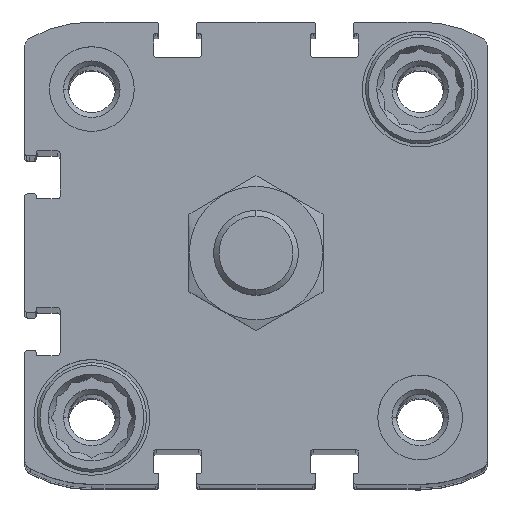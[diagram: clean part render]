
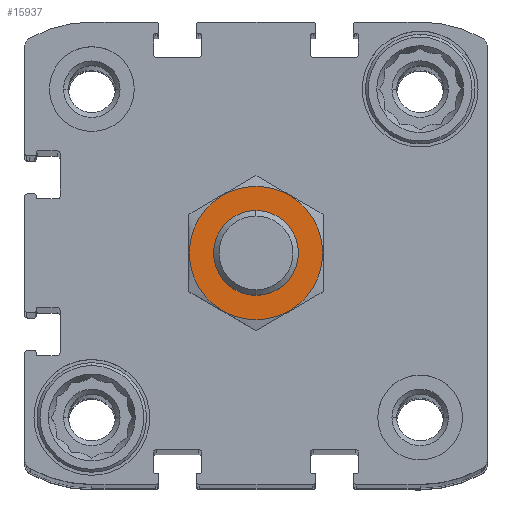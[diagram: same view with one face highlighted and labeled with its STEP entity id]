
A CAD part, top view. The second image highlights one B-rep face of the part: STEP entity #15937.
In plain terms, the highlighted planar face has unit normal (0, 0, 1) as drawn and (0, 1, 0) by its records, which use the part's own axes.
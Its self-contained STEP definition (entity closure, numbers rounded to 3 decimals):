
#256 = CARTESIAN_POINT ( 'NONE',  ( 0., 0., 0. ) ) ;
#599 = AXIS2_PLACEMENT_3D ( 'NONE', #4519, #15794, #8348 ) ;
#687 = VERTEX_POINT ( 'NONE', #12695 ) ;
#690 = PLANE ( 'NONE',  #599 ) ;
#714 = DIRECTION ( 'NONE',  ( 0., -1., 0. ) ) ;
#1363 = VERTEX_POINT ( 'NONE', #13951 ) ;
#1426 = DIRECTION ( 'NONE',  ( 0., -1., 0. ) ) ;
#1618 = CARTESIAN_POINT ( 'NONE',  ( 0., 0., 0. ) ) ;
#1930 = CARTESIAN_POINT ( 'NONE',  ( 9.45, 0., 0. ) ) ;
#2258 = VERTEX_POINT ( 'NONE', #1930 ) ;
#2584 = EDGE_CURVE ( 'NONE', #1363, #2258, #12847, .T. ) ;
#2762 = DIRECTION ( 'NONE',  ( 1., 0., 0. ) ) ;
#2890 = DIRECTION ( 'NONE',  ( 0., 0., 1. ) ) ;
#3432 = ORIENTED_EDGE ( 'NONE', *, *, #5563, .T. ) ;
#4519 = CARTESIAN_POINT ( 'NONE',  ( 0., 0., 0. ) ) ;
#5490 = ORIENTED_EDGE ( 'NONE', *, *, #8105, .T. ) ;
#5563 = EDGE_CURVE ( 'NONE', #687, #11377, #6941, .T. ) ;
#5653 = DIRECTION ( 'NONE',  ( 0., -1., 0. ) ) ;
#6493 = AXIS2_PLACEMENT_3D ( 'NONE', #8259, #714, #9543 ) ;
#6941 = CIRCLE ( 'NONE', #12470, 6. ) ;
#8105 = EDGE_CURVE ( 'NONE', #11377, #687, #15376, .T. ) ;
#8259 = CARTESIAN_POINT ( 'NONE',  ( 0., 0., 0. ) ) ;
#8291 = ORIENTED_EDGE ( 'NONE', *, *, #8803, .F. ) ;
#8348 = DIRECTION ( 'NONE',  ( 0., 0., -1. ) ) ;
#8803 = EDGE_CURVE ( 'NONE', #2258, #1363, #13163, .T. ) ;
#9543 = DIRECTION ( 'NONE',  ( 1., 0., 0. ) ) ;
#9875 = CARTESIAN_POINT ( 'NONE',  ( 0., 0., 6. ) ) ;
#10503 = DIRECTION ( 'NONE',  ( 0., -1., 0. ) ) ;
#11377 = VERTEX_POINT ( 'NONE', #9875 ) ;
#11664 = FACE_OUTER_BOUND ( 'NONE', #12477, .T. ) ;
#12470 = AXIS2_PLACEMENT_3D ( 'NONE', #13177, #5653, #14417 ) ;
#12477 = EDGE_LOOP ( 'NONE', ( #8291, #15291 ) ) ;
#12691 = AXIS2_PLACEMENT_3D ( 'NONE', #256, #1426, #2762 ) ;
#12695 = CARTESIAN_POINT ( 'NONE',  ( 0., 0., -6. ) ) ;
#12847 = CIRCLE ( 'NONE', #12691, 9.45 ) ;
#13163 = CIRCLE ( 'NONE', #6493, 9.45 ) ;
#13177 = CARTESIAN_POINT ( 'NONE',  ( 0., 0., 0. ) ) ;
#13951 = CARTESIAN_POINT ( 'NONE',  ( -9.45, 0., 0. ) ) ;
#14375 = EDGE_LOOP ( 'NONE', ( #5490, #3432 ) ) ;
#14417 = DIRECTION ( 'NONE',  ( 0., 0., 1. ) ) ;
#15172 = AXIS2_PLACEMENT_3D ( 'NONE', #1618, #10503, #2890 ) ;
#15291 = ORIENTED_EDGE ( 'NONE', *, *, #2584, .F. ) ;
#15301 = FACE_BOUND ( 'NONE', #14375, .T. ) ;
#15376 = CIRCLE ( 'NONE', #15172, 6. ) ;
#15794 = DIRECTION ( 'NONE',  ( 0., -1., 0. ) ) ;
#15937 = ADVANCED_FACE ( 'NONE', ( #15301, #11664 ), #690, .F. ) ;
